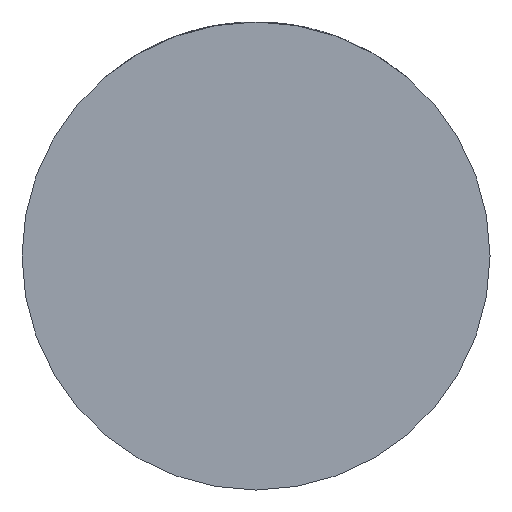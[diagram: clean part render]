
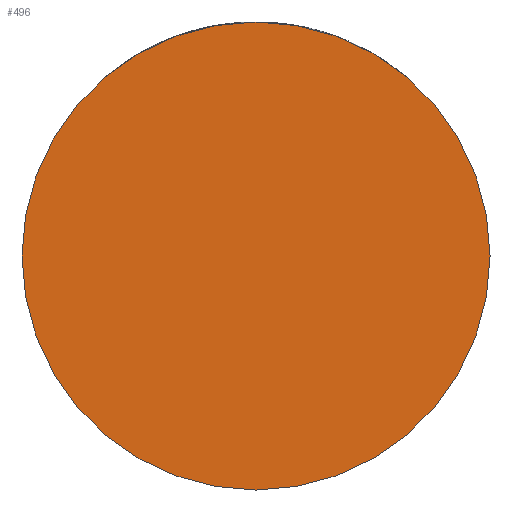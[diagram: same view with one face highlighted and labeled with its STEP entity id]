
A CAD part, front view. The second image highlights one B-rep face of the part: STEP entity #496.
In plain terms, the highlighted planar face has unit normal (0, -1, 0).
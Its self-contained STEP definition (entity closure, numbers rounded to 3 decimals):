
#59 = DIRECTION ( 'NONE',  ( 1., 0., 0. ) ) ;
#198 = CARTESIAN_POINT ( 'NONE',  ( -32., -27., 0. ) ) ;
#275 = DIRECTION ( 'NONE',  ( 0., -1., 0. ) ) ;
#425 = FACE_OUTER_BOUND ( 'NONE', #638, .T. ) ;
#496 = ADVANCED_FACE ( 'NONE', ( #425 ), #2866, .T. ) ;
#638 = EDGE_LOOP ( 'NONE', ( #4277, #1081 ) ) ;
#1004 = CARTESIAN_POINT ( 'NONE',  ( 0., -27., 0. ) ) ;
#1081 = ORIENTED_EDGE ( 'NONE', *, *, #4353, .T. ) ;
#1125 = DIRECTION ( 'NONE',  ( 0., -1., 0. ) ) ;
#1137 = CARTESIAN_POINT ( 'NONE',  ( 32., -27., 0. ) ) ;
#1191 = VERTEX_POINT ( 'NONE', #198 ) ;
#1782 = DIRECTION ( 'NONE',  ( 0., -1., 0. ) ) ;
#1818 = CIRCLE ( 'NONE', #3188, 32. ) ;
#1834 = EDGE_CURVE ( 'NONE', #1191, #4118, #2343, .T. ) ;
#2343 = CIRCLE ( 'NONE', #3564, 32. ) ;
#2499 = DIRECTION ( 'NONE',  ( 1., 0., 0. ) ) ;
#2795 = AXIS2_PLACEMENT_3D ( 'NONE', #3812, #1782, #59 ) ;
#2866 = PLANE ( 'NONE',  #2795 ) ;
#3188 = AXIS2_PLACEMENT_3D ( 'NONE', #1004, #275, #3388 ) ;
#3388 = DIRECTION ( 'NONE',  ( 1., 0., 0. ) ) ;
#3564 = AXIS2_PLACEMENT_3D ( 'NONE', #4173, #1125, #2499 ) ;
#3812 = CARTESIAN_POINT ( 'NONE',  ( 0., -27., 0. ) ) ;
#4118 = VERTEX_POINT ( 'NONE', #1137 ) ;
#4173 = CARTESIAN_POINT ( 'NONE',  ( 0., -27., 0. ) ) ;
#4277 = ORIENTED_EDGE ( 'NONE', *, *, #1834, .T. ) ;
#4353 = EDGE_CURVE ( 'NONE', #4118, #1191, #1818, .T. ) ;
